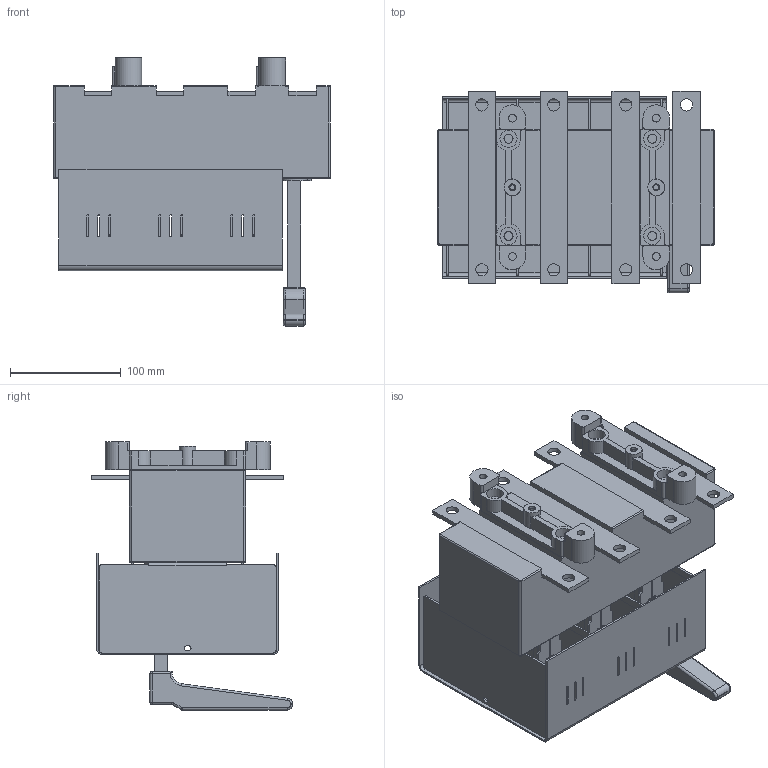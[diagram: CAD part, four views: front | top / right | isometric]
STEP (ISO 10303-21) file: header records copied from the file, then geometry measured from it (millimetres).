
FILE_DESCRIPTION(/* description */ (''),/* implementation_level */ '2;1');
FILE_NAME(/* name */ 'RAB 1 P3 N-R.stp',/* time_stamp */ '2021-08-19T12:07:01+02:00',/* author */ (''),/* organization */ (''),/* preprocessor_version */ 'ST-DEVELOPER v18.1',/* originating_system */ 'SIEMENS PLM Software NX 1965',/* authorisation */ '');
FILE_SCHEMA (('AUTOMOTIVE_DESIGN { 1 0 10303 214 3 1 1 1 }'));
Length unit declared in the file: millimetre
Products named in the file (1): RAB 1 P3 N-R_stp
Bounding box: 250 x 182 x 242.3 mm (x, y, z)
Volume: 2497201.6 mm3; surface area: 443584.6 mm2
Topology: 1 solids, 1 shells, 1040 faces, 2863 edges, 1852 vertices
Faces by surface type: plane 661, cylinder 357, torus 13, sphere 6, bspline 3
Full cylindrical faces by diameter (mm): 4.8 x2, 6.2 x2, 7 x4, 8.2 x4, 11 x8, 14 x4, 15 x2, 15.5 x4
Entity records: 33038 total; most frequent: CARTESIAN_POINT 5809, ORIENTED_EDGE 5646, DIRECTION 5637, EDGE_CURVE 2823, LINE 2069, VECTOR 2069, VERTEX_POINT 1848, AXIS2_PLACEMENT_3D 1784
